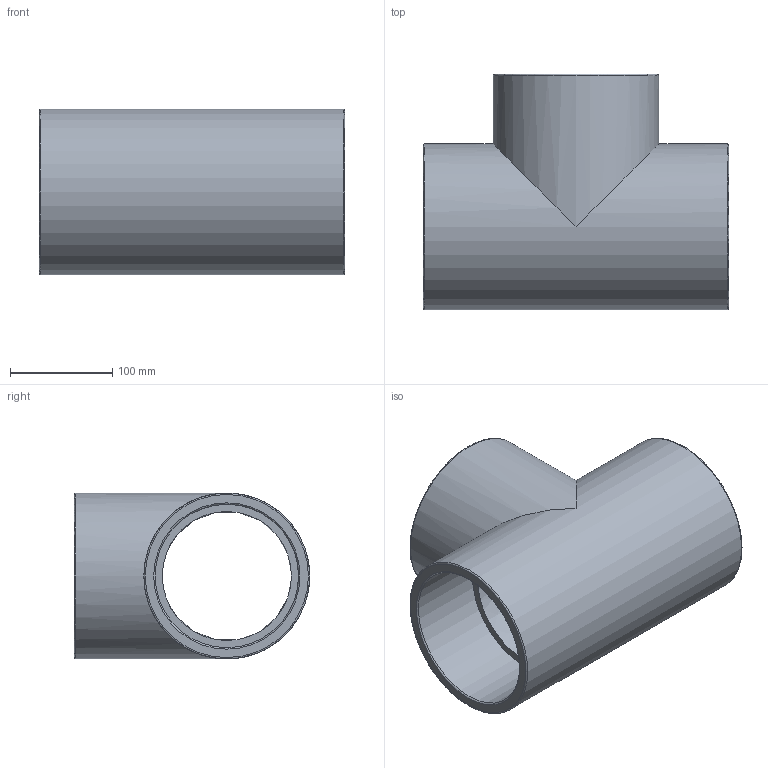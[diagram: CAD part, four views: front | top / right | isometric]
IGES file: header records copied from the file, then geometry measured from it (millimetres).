
Global section: file name: 050400140.ipt; native system: Autodesk Inventor 2015; preprocessor: unknown; author: KIM; date: 20171207.164443; units: millimetre
Bounding box: 298 x 230 x 162 mm (x, y, z)
Volume: 2221484 mm3; surface area: 352942.8 mm2
Topology: 1 solids, 1 shells, 19 faces, 60 edges, 46 vertices
Faces by surface type: revolution 11, plane 6, cylinder 2
Full cylindrical faces by diameter (mm): 162 x2
